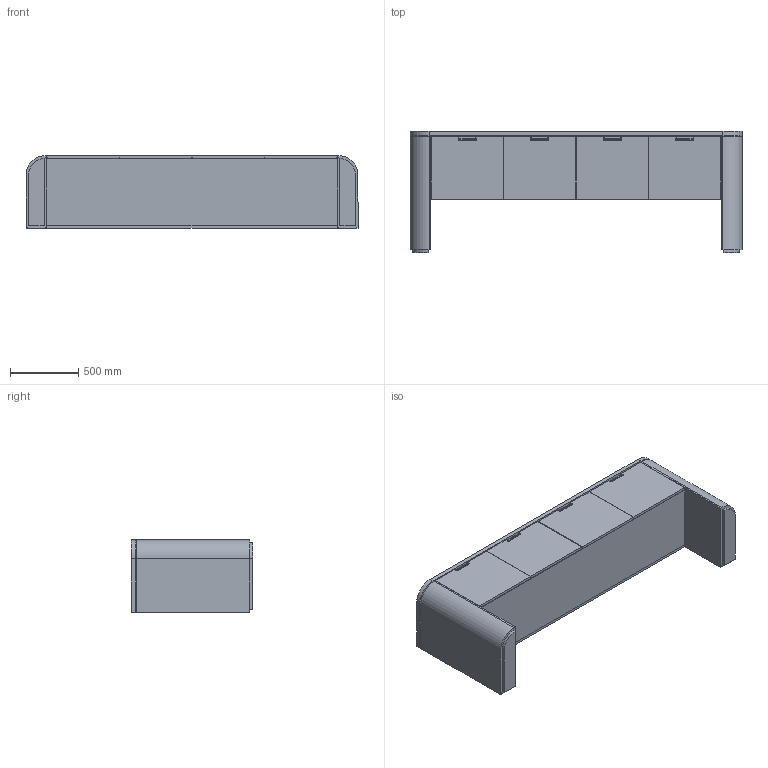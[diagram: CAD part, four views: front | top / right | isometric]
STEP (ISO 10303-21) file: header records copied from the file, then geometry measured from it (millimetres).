
FILE_DESCRIPTION(/* description */ ('','CAx-IF Rec.Pracs.---Representation and Presentation of Product Manufacturing Information (PMI)---4.0---2014-10-13'),/* implementation_level */ '2;1');
FILE_NAME(/* name */ 'BASYS^CS4.stp',/* time_stamp */ '2024-12-05T18:10:38-05:00',/* author */ ('mbowman'),/* organization */ (''),/* preprocessor_version */ 'ST-DEVELOPER v19.2',/* originating_system */ 'Autodesk Inventor 2023',/* authorisation */ '');
FILE_SCHEMA (('AP242_MANAGED_MODEL_BASED_3D_ENGINEERING_MIM_LF { 1 0 10303 442 1 1 4 }'));
Length unit declared in the file: inch
Products named in the file (3): BASYS^CREDENZA 2_4 DOORS ROUND LEG-SOLID ASSEMBLY; BASYS^CREDENZA 2_4 DOORS ROUND LEG-PARTS SOLID; PULL 2518
Assembly tree (5 placements, depth 2):
  BASYS^CREDENZA 2_4 DOORS ROUND LEG-SOLID ASSEMBLY
    BASYS^CREDENZA 2_4 DOORS ROUND LEG-PARTS SOLID
    PULL 2518  x4
Bounding box: 2438.4 x 889 x 533.91 mm (x, y, z)
Volume: 180351003.5 mm3; surface area: 17363210.9 mm2
Topology: 24 solids, 24 shells, 250 faces, 604 edges, 402 vertices
Faces by surface type: plane 216, cylinder 34
Entity records: 6035 total; most frequent: CARTESIAN_POINT 1263, DIRECTION 850, ORIENTED_EDGE 812, EDGE_CURVE 406, LINE 374, VECTOR 374, VERTEX_POINT 270, STYLED_ITEM 248
